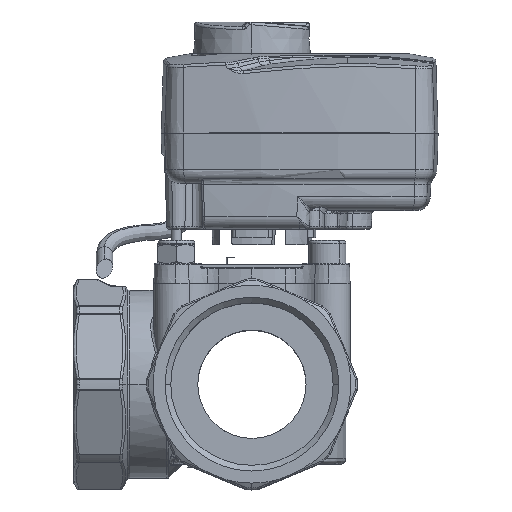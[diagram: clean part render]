
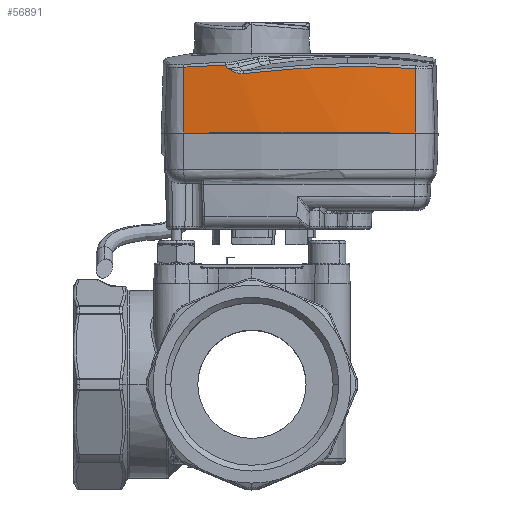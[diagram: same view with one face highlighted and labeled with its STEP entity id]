
A CAD part, top view. The second image highlights one B-rep face of the part: STEP entity #56891.
In plain terms, the highlighted conical face has half-angle 2 degrees and reference radius 250 mm.
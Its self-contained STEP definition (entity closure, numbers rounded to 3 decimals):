
#136 = CARTESIAN_POINT ( 'NONE',  ( -6.904, 109.924, 39.075 ) ) ;
#425 = VERTEX_POINT ( 'NONE', #14950 ) ;
#713 = CARTESIAN_POINT ( 'NONE',  ( 32.335, 111.618, 39.703 ) ) ;
#1808 = CARTESIAN_POINT ( 'NONE',  ( 57.5, 88.2, 37.614 ) ) ;
#3038 = VERTEX_POINT ( 'NONE', #4257 ) ;
#3753 = DIRECTION ( 'NONE',  ( 0., 0., -1. ) ) ;
#3767 = CARTESIAN_POINT ( 'NONE',  ( -9.176, 112.048, 38.773 ) ) ;
#4257 = CARTESIAN_POINT ( 'NONE',  ( 57.371, 110.813, 36.835 ) ) ;
#4986 = CARTESIAN_POINT ( 'NONE',  ( -8.255, 110.681, 38.916 ) ) ;
#5089 = ORIENTED_EDGE ( 'NONE', *, *, #38764, .T. ) ;
#5244 = CARTESIAN_POINT ( 'NONE',  ( -24., 88.2, 37.614 ) ) ;
#5387 = B_SPLINE_CURVE_WITH_KNOTS ( 'NONE', 3,
 ( #47574, #38352, #47989, #19219, #52802, #24066, #57645, #28917, #136, #33755, #4986, #38554 ),
 .UNSPECIFIED., .F., .F.,
 ( 4, 2, 2, 2, 2, 4 ),
 ( 0., 0.002, 0.002, 0.003, 0.005, 0.006 ),
 .UNSPECIFIED. ) ;
#5522 = CARTESIAN_POINT ( 'NONE',  ( 22.266, 111.228, 40.106 ) ) ;
#5840 = AXIS2_PLACEMENT_3D ( 'NONE', #61262, #32549, #3753 ) ;
#6787 = VERTEX_POINT ( 'NONE', #30661 ) ;
#6952 = LINE ( 'NONE', #30925, #19670 ) ;
#7962 = ORIENTED_EDGE ( 'NONE', *, *, #40874, .T. ) ;
#8650 = CARTESIAN_POINT ( 'NONE',  ( -9.176, 112.048, 38.773 ) ) ;
#9843 = DIRECTION ( 'NONE',  ( 0., -1., 0. ) ) ;
#10344 = CARTESIAN_POINT ( 'NONE',  ( 14.696, 110.739, 40.175 ) ) ;
#13388 = CARTESIAN_POINT ( 'NONE',  ( -14.099, 111.933, 38.262 ) ) ;
#13688 = CARTESIAN_POINT ( 'NONE',  ( -2.936, 109.06, 39.451 ) ) ;
#14434 = DIRECTION ( 'NONE',  ( 0., 0., -1. ) ) ;
#14725 = B_SPLINE_CURVE_WITH_KNOTS ( 'NONE', 3,
 ( #3767, #13388, #47215, #18444 ),
 .UNSPECIFIED., .F., .F.,
 ( 4, 4 ),
 ( 0., 0.015 ),
 .UNSPECIFIED. ) ;
#14950 = CARTESIAN_POINT ( 'NONE',  ( -9.176, 112.048, 38.773 ) ) ;
#15152 = CARTESIAN_POINT ( 'NONE',  ( 2.087, 109.617, 39.829 ) ) ;
#15243 = ORIENTED_EDGE ( 'NONE', *, *, #35912, .F. ) ;
#16376 = ORIENTED_EDGE ( 'NONE', *, *, #25957, .F. ) ;
#17485 = DIRECTION ( 'NONE',  ( -0.006, -0.999, 0.034 ) ) ;
#18444 = CARTESIAN_POINT ( 'NONE',  ( -23.868, 111.323, 36.817 ) ) ;
#19211 = VERTEX_POINT ( 'NONE', #13688 ) ;
#19219 = CARTESIAN_POINT ( 'NONE',  ( -4.731, 109.15, 39.299 ) ) ;
#19670 = VECTOR ( 'NONE', #60062, 1000. ) ;
#19752 = CARTESIAN_POINT ( 'NONE',  ( 52.381, 111.177, 37.647 ) ) ;
#19838 = ORIENTED_EDGE ( 'NONE', *, *, #36999, .T. ) ;
#21889 = LINE ( 'NONE', #22111, #55048 ) ;
#22111 = CARTESIAN_POINT ( 'NONE',  ( -24.007, 87., 37.655 ) ) ;
#22762 = VERTEX_POINT ( 'NONE', #47570 ) ;
#22888 = CARTESIAN_POINT ( 'NONE',  ( -8.852, 111.317, 38.832 ) ) ;
#24066 = CARTESIAN_POINT ( 'NONE',  ( -5.481, 109.347, 39.226 ) ) ;
#24117 = CARTESIAN_POINT ( 'NONE',  ( 16.75, 87., -209. ) ) ;
#24422 = CARTESIAN_POINT ( 'NONE',  ( 57.371, 110.813, 36.835 ) ) ;
#25544 = B_SPLINE_CURVE_WITH_KNOTS ( 'NONE', 3,
 ( #24422, #19752, #58197, #29460, #713, #34303, #5522, #39099, #10344, #43939, #15152, #48740 ),
 .UNSPECIFIED., .F., .F.,
 ( 4, 2, 2, 2, 2, 4 ),
 ( 0., 0.015, 0.03, 0.038, 0.045, 0.06 ),
 .UNSPECIFIED. ) ;
#25957 = EDGE_CURVE ( 'NONE', #43860, #56944, #44324, .T. ) ;
#28917 = CARTESIAN_POINT ( 'NONE',  ( -6.442, 109.702, 39.126 ) ) ;
#29460 = CARTESIAN_POINT ( 'NONE',  ( 37.357, 111.655, 39.336 ) ) ;
#30661 = CARTESIAN_POINT ( 'NONE',  ( -8.69, 110.952, 38.861 ) ) ;
#30925 = CARTESIAN_POINT ( 'NONE',  ( 57.507, 87., 37.655 ) ) ;
#32549 = DIRECTION ( 'NONE',  ( 0., -1., 0. ) ) ;
#33252 = EDGE_CURVE ( 'NONE', #6787, #425, #44020, .T. ) ;
#33755 = CARTESIAN_POINT ( 'NONE',  ( -7.811, 110.413, 38.969 ) ) ;
#34303 = CARTESIAN_POINT ( 'NONE',  ( 24.785, 111.351, 40.033 ) ) ;
#35912 = EDGE_CURVE ( 'NONE', #3038, #43860, #6952, .T. ) ;
#36570 = CONICAL_SURFACE ( 'NONE', #47456, 250., 0.035 ) ;
#36999 = EDGE_CURVE ( 'NONE', #22762, #56944, #21889, .T. ) ;
#37195 = CARTESIAN_POINT ( 'NONE',  ( -8.69, 110.952, 38.861 ) ) ;
#37405 = CARTESIAN_POINT ( 'NONE',  ( -9.014, 111.682, 38.802 ) ) ;
#38352 = CARTESIAN_POINT ( 'NONE',  ( -3.454, 109.002, 39.412 ) ) ;
#38554 = CARTESIAN_POINT ( 'NONE',  ( -8.69, 110.952, 38.861 ) ) ;
#38764 = EDGE_CURVE ( 'NONE', #19211, #6787, #5387, .T. ) ;
#39099 = CARTESIAN_POINT ( 'NONE',  ( 17.222, 110.922, 40.177 ) ) ;
#40874 = EDGE_CURVE ( 'NONE', #3038, #19211, #25544, .T. ) ;
#43860 = VERTEX_POINT ( 'NONE', #1808 ) ;
#43939 = CARTESIAN_POINT ( 'NONE',  ( 7.121, 110.121, 40.058 ) ) ;
#44020 = B_SPLINE_CURVE_WITH_KNOTS ( 'NONE', 3,
 ( #37195, #22888, #37405, #8650 ),
 .UNSPECIFIED., .F., .F.,
 ( 4, 4 ),
 ( 0.002, 0.003 ),
 .UNSPECIFIED. ) ;
#44324 = CIRCLE ( 'NONE', #5840, 249.958 ) ;
#44467 = ORIENTED_EDGE ( 'NONE', *, *, #33252, .T. ) ;
#47035 = EDGE_CURVE ( 'NONE', #425, #22762, #14725, .T. ) ;
#47215 = CARTESIAN_POINT ( 'NONE',  ( -18.995, 111.679, 37.61 ) ) ;
#47456 = AXIS2_PLACEMENT_3D ( 'NONE', #24117, #9843, #14434 ) ;
#47570 = CARTESIAN_POINT ( 'NONE',  ( -23.868, 111.323, 36.817 ) ) ;
#47574 = CARTESIAN_POINT ( 'NONE',  ( -2.936, 109.06, 39.451 ) ) ;
#47989 = CARTESIAN_POINT ( 'NONE',  ( -3.967, 109.025, 39.369 ) ) ;
#48740 = CARTESIAN_POINT ( 'NONE',  ( -2.936, 109.06, 39.451 ) ) ;
#50807 = FACE_OUTER_BOUND ( 'NONE', #55730, .T. ) ;
#52802 = CARTESIAN_POINT ( 'NONE',  ( -4.985, 109.208, 39.275 ) ) ;
#55048 = VECTOR ( 'NONE', #17485, 1000. ) ;
#55730 = EDGE_LOOP ( 'NONE', ( #16376, #15243, #7962, #5089, #44467, #60258, #19838 ) ) ;
#56891 = ADVANCED_FACE ( 'NONE', ( #50807 ), #36570, .T. ) ;
#56944 = VERTEX_POINT ( 'NONE', #5244 ) ;
#57645 = CARTESIAN_POINT ( 'NONE',  ( -5.725, 109.428, 39.201 ) ) ;
#58197 = CARTESIAN_POINT ( 'NONE',  ( 47.38, 111.433, 38.308 ) ) ;
#60062 = DIRECTION ( 'NONE',  ( 0.006, -0.999, 0.034 ) ) ;
#60258 = ORIENTED_EDGE ( 'NONE', *, *, #47035, .T. ) ;
#61262 = CARTESIAN_POINT ( 'NONE',  ( 16.75, 88.2, -209. ) ) ;
